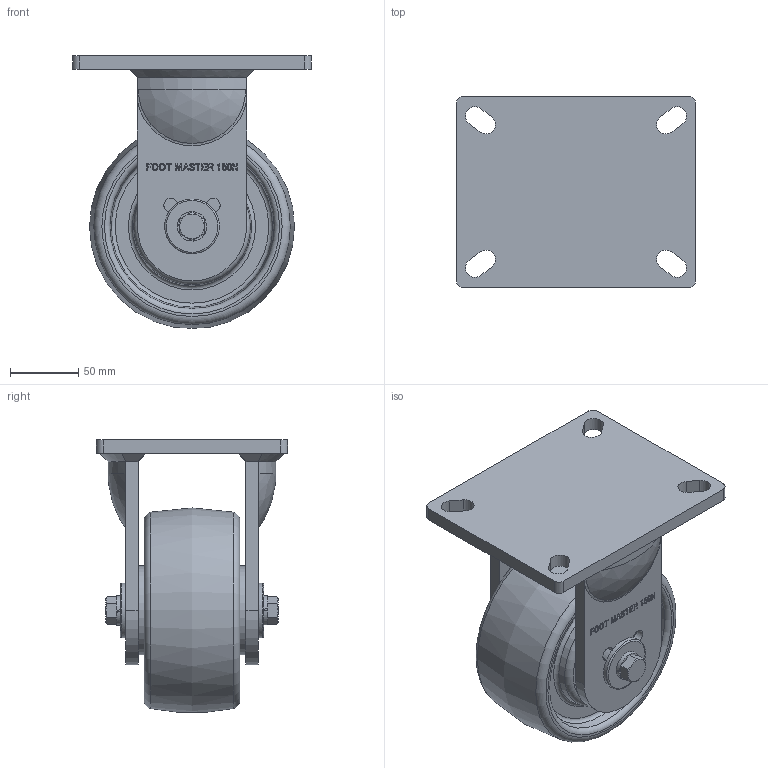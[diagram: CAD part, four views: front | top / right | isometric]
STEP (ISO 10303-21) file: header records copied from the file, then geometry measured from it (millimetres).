
FILE_DESCRIPTION(/* description */ (''),/* implementation_level */ '2;1');
FILE_NAME(/* name */ 'Y:\1.기술연구소\2.연구개발 진행중\133.고하중캐스터 브레이크 타입 변경건_2025.11.03\1.도면\4.홈페이지용 도면\01. 3D\GXT-150 SERIES\GXT-150-STEP\GXT-150N-ARF-NYD.stp',/* time_stamp */ '2026-07-21T18:17:14+09:00',/* author */ ('장용하'),/* organization */ (''),/* preprocessor_version */ 'ST-DEVELOPER v18.1',/* originating_system */ 'Autodesk Inventor 2021',/* authorisation */ '');
FILE_SCHEMA (('CONFIG_CONTROL_DESIGN'));
Length unit declared in the file: millimetre
Products named in the file (1): GXT-150N-ARF-NYD
Bounding box: 175 x 140 x 199.66 mm (x, y, z)
Volume: 1561943.7 mm3; surface area: 172582.8 mm2
Topology: 1 solids, 1 shells, 901 faces, 2446 edges, 1620 vertices
Faces by surface type: plane 473, bspline 340, cylinder 48, torus 18, cone 18, sphere 4
Full cylindrical faces by diameter (mm): 12 x2, 21.5 x2, 40 x2, 65 x2
Entity records: 29088 total; most frequent: CARTESIAN_POINT 8493, ORIENTED_EDGE 4892, DIRECTION 3087, EDGE_CURVE 2446, VERTEX_POINT 1620, LINE 1525, VECTOR 1525, EDGE_LOOP 988
